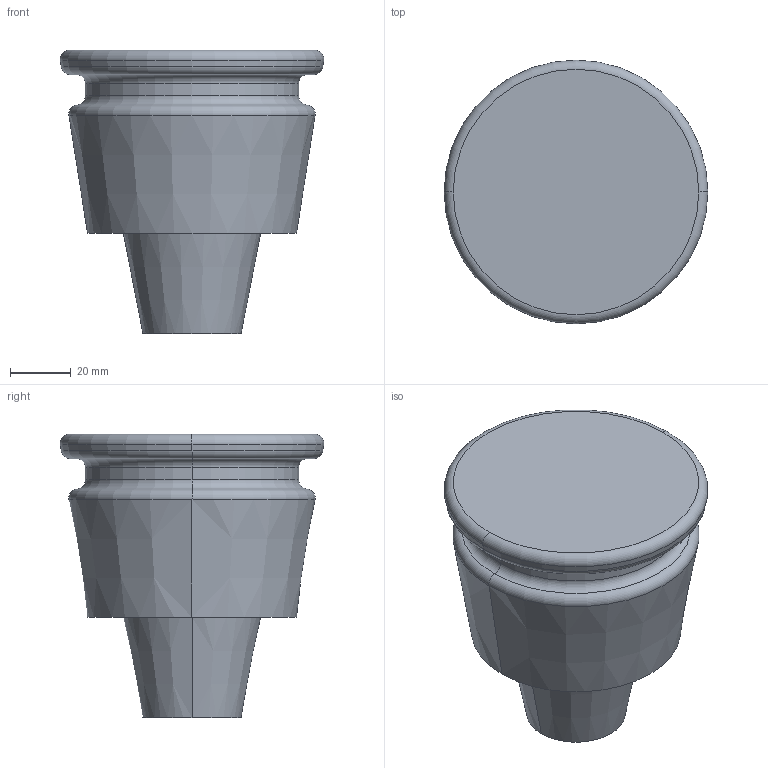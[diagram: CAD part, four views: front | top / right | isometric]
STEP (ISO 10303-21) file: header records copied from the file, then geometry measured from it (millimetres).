
FILE_DESCRIPTION (( 'STEP AP203' ), '1' );
FILE_NAME ('plot central.STEP', '2020-03-25T08:54:42', ( '' ), ( '' ), 'SwSTEP 2.0', 'SolidWorks 2020', '' );
FILE_SCHEMA (( 'CONFIG_CONTROL_DESIGN' ));
Length unit declared in the file: millimetre
Products named in the file (1): plot central
Bounding box: 86.5 x 86.5 x 93 mm (x, y, z)
Volume: 310162.3 mm3; surface area: 28895.1 mm2
Topology: 1 solids, 1 shells, 22 faces, 42 edges, 24 vertices
Faces by surface type: torus 10, cone 6, plane 4, cylinder 2
Entity records: 641 total; most frequent: DIRECTION 122, CARTESIAN_POINT 89, ORIENTED_EDGE 84, AXIS2_PLACEMENT_3D 57, EDGE_CURVE 42, CIRCLE 34, VERTEX_POINT 24, EDGE_LOOP 24
